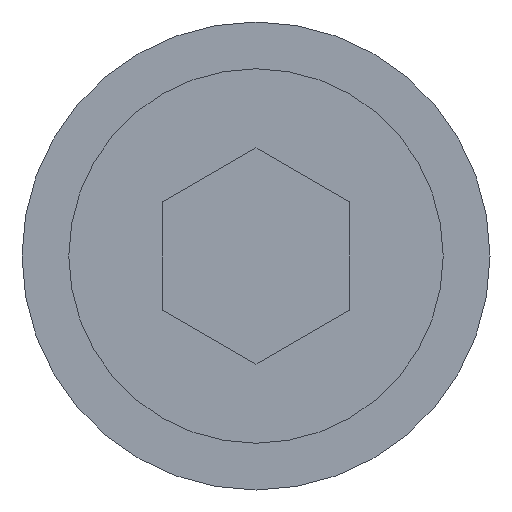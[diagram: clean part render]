
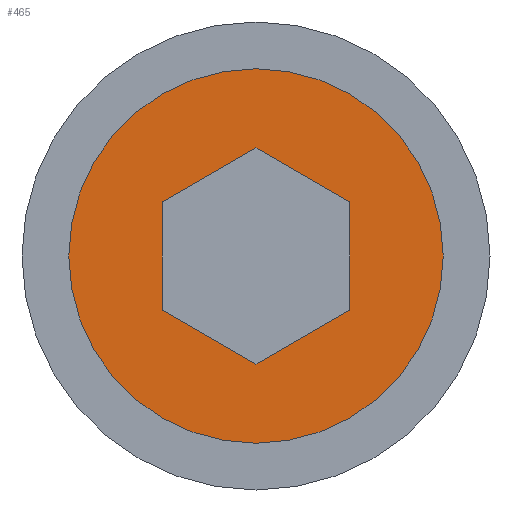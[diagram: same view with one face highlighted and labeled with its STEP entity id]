
A CAD part, left-side view. The second image highlights one B-rep face of the part: STEP entity #465.
In plain terms, the highlighted planar face has unit normal (-1, 0, 0).
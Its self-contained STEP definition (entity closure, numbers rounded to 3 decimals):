
#399=CARTESIAN_POINT('',(146.566,94.718,33.5));
#400=VERTEX_POINT('',#399);
#401=CARTESIAN_POINT('',(146.566,94.718,29.5));
#402=DIRECTION('',(1.,0.,0.));
#403=DIRECTION('',(0.,0.,1.));
#404=AXIS2_PLACEMENT_3D('',#401,#402,#403);
#405=CIRCLE('',#404,4.);
#406=EDGE_CURVE('',#400,#400,#405,.T.);
#407=ORIENTED_EDGE('',*,*,#406,.F.);
#408=EDGE_LOOP('',(#407));
#409=FACE_OUTER_BOUND('',#408,.T.);
#410=CARTESIAN_POINT('',(146.566,96.718,28.345));
#411=VERTEX_POINT('',#410);
#412=CARTESIAN_POINT('',(146.566,96.718,30.655));
#413=VERTEX_POINT('',#412);
#414=CARTESIAN_POINT('',(146.566,96.718,30.5));
#415=DIRECTION('',(0.,0.,1.));
#416=VECTOR('',#415,1.);
#417=LINE('',#414,#416);
#418=EDGE_CURVE('',#411,#413,#417,.T.);
#419=ORIENTED_EDGE('',*,*,#418,.T.);
#420=CARTESIAN_POINT('',(146.566,94.718,31.809));
#421=VERTEX_POINT('',#420);
#422=CARTESIAN_POINT('',(146.566,95.285,31.482));
#423=DIRECTION('',(0.,-0.866,0.5));
#424=VECTOR('',#423,1.);
#425=LINE('',#422,#424);
#426=EDGE_CURVE('',#413,#421,#425,.T.);
#427=ORIENTED_EDGE('',*,*,#426,.T.);
#428=CARTESIAN_POINT('',(146.566,92.718,30.655));
#429=VERTEX_POINT('',#428);
#430=CARTESIAN_POINT('',(146.566,94.151,31.482));
#431=DIRECTION('',(0.,-0.866,-0.5));
#432=VECTOR('',#431,1.);
#433=LINE('',#430,#432);
#434=EDGE_CURVE('',#421,#429,#433,.T.);
#435=ORIENTED_EDGE('',*,*,#434,.T.);
#436=CARTESIAN_POINT('',(146.566,92.718,28.345));
#437=VERTEX_POINT('',#436);
#438=CARTESIAN_POINT('',(146.566,92.718,30.5));
#439=DIRECTION('',(0.,0.,-1.));
#440=VECTOR('',#439,1.);
#441=LINE('',#438,#440);
#442=EDGE_CURVE('',#429,#437,#441,.T.);
#443=ORIENTED_EDGE('',*,*,#442,.T.);
#444=CARTESIAN_POINT('',(146.566,94.718,27.191));
#445=VERTEX_POINT('',#444);
#446=CARTESIAN_POINT('',(146.566,93.285,28.018));
#447=DIRECTION('',(0.,0.866,-0.5));
#448=VECTOR('',#447,1.);
#449=LINE('',#446,#448);
#450=EDGE_CURVE('',#437,#445,#449,.T.);
#451=ORIENTED_EDGE('',*,*,#450,.T.);
#452=CARTESIAN_POINT('',(146.566,96.151,28.018));
#453=DIRECTION('',(0.,0.866,0.5));
#454=VECTOR('',#453,1.);
#455=LINE('',#452,#454);
#456=EDGE_CURVE('',#445,#411,#455,.T.);
#457=ORIENTED_EDGE('',*,*,#456,.T.);
#458=EDGE_LOOP('',(#419,#427,#435,#443,#451,#457));
#459=FACE_BOUND('',#458,.T.);
#460=CARTESIAN_POINT('',(146.566,94.718,31.5));
#461=DIRECTION('',(-1.,0.,0.));
#462=DIRECTION('',(0.,0.,-1.));
#463=AXIS2_PLACEMENT_3D('',#460,#461,#462);
#464=PLANE('',#463);
#465=ADVANCED_FACE('',(#409,#459),#464,.T.);
